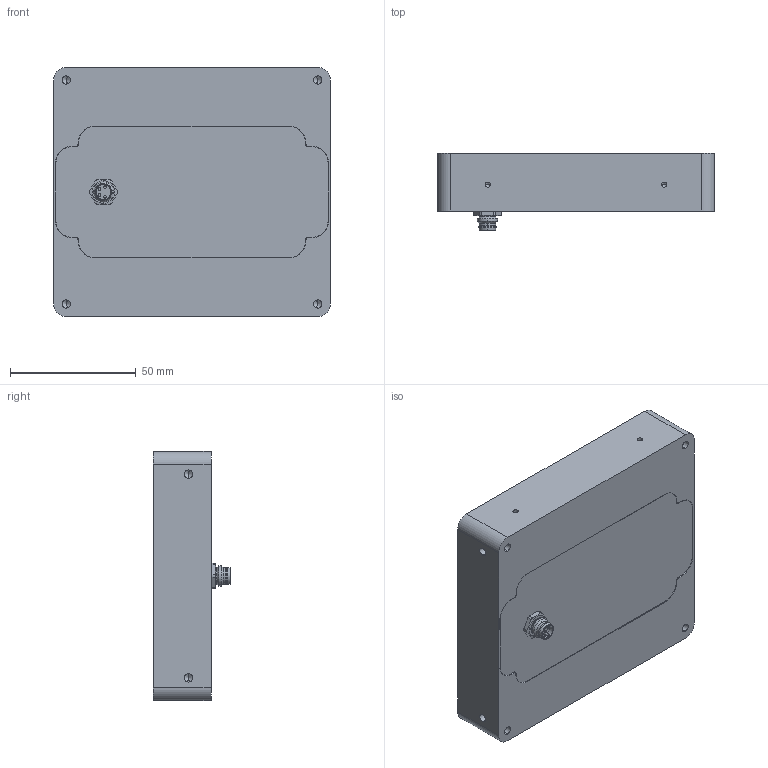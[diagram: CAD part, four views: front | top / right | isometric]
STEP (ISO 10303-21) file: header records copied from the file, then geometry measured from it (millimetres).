
FILE_DESCRIPTION (( 'STEP AP214' ), '1' );
FILE_NAME ('02992.00 Basisbaugruppe SAL-0910.STEP', '2022-03-21T15:01:18', ( '' ), ( '' ), 'SwSTEP 2.0', 'SolidWorks 2013', '' );
FILE_SCHEMA (( 'AUTOMOTIVE_DESIGN' ));
Length unit declared in the file: millimetre
Products named in the file (6): 02992.00 Basisbaugruppe SAL-0910; 02995.00 Steckerblech SAL-09xx (M8-Stecker); 00699.00 Mutter M8x0,5; 00222.00 Einbaustecker M8x0,5, 4-pol; 02993.00 Gehäuse SAL-0910; 02994.00 Deckscheibe SAL-0910 (klar, mit Blende)
Assembly tree (5 placements, depth 2):
  02992.00 Basisbaugruppe SAL-0910
    02993.00 Gehäuse SAL-0910
    02994.00 Deckscheibe SAL-0910 (klar, mit Blende)
    00222.00 Einbaustecker M8x0,5, 4-pol
    02995.00 Steckerblech SAL-09xx (M8-Stecker)
    00699.00 Mutter M8x0,5
Bounding box: 110 x 30.8 x 99 mm (x, y, z)
Volume: 132943.4 mm3; surface area: 76858.2 mm2
Topology: 6 solids, 6 shells, 376 faces, 1000 edges, 638 vertices
Faces by surface type: cylinder 166, plane 154, cone 48, bspline 8
Entity records: 14036 total; most frequent: CARTESIAN_POINT 2900, DIRECTION 2030, ORIENTED_EDGE 1952, EDGE_CURVE 976, AXIS2_PLACEMENT_3D 729, VERTEX_POINT 638, LINE 572, VECTOR 572
